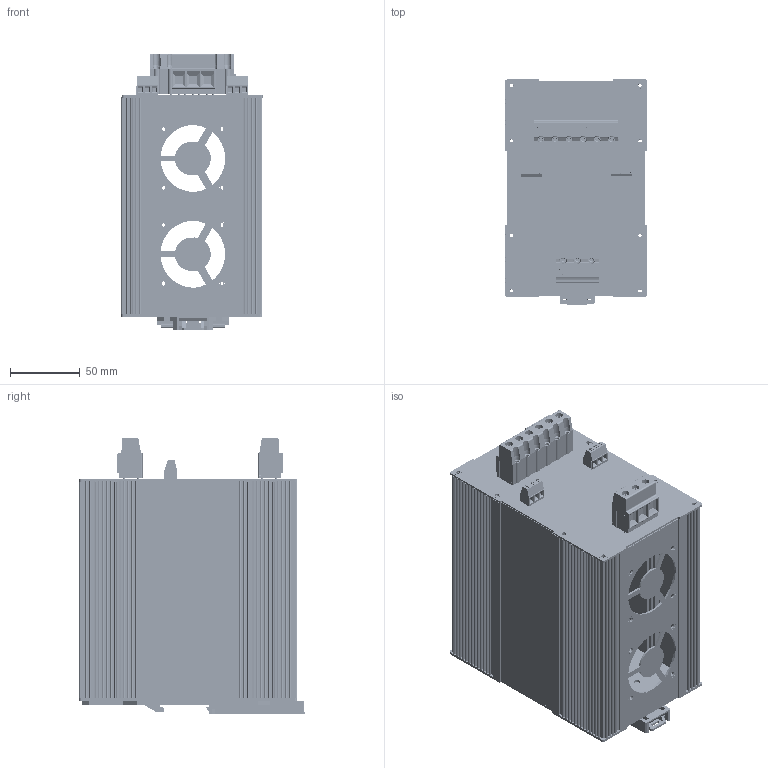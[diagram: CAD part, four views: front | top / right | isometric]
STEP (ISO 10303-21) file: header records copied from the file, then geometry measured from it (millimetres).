
FILE_DESCRIPTION(/* description */ (''),/* implementation_level */ '2;1');
FILE_NAME(/* name */ 'D:\01-KEVOLTA\PRODUITS\PRODUITS ACTIF\KMR_series\PLAN\KMR_CCR\KMR_CCR_156.stp',/* time_stamp */ '2025-09-11T15:55:58+02:00',/* author */ ('Julien'),/* organization */ (''),/* preprocessor_version */ 'ST-DEVELOPER v18.1',/* originating_system */ 'Autodesk Inventor 2021',/* authorisation */ '');
FILE_SCHEMA (('AUTOMOTIVE_DESIGN { 1 0 10303 214 3 1 1 }'));
Products named in the file (6): KMR_CCR_156; KBA-156-FAN; FACE_ARR; KMR_CCR; UTA 159 RAIL DIN; KPS_series_156_FAN
Assembly tree (6 placements, depth 2):
  KMR_CCR_156
    KBA-156-FAN
    FACE_ARR
    KMR_CCR
    UTA 159 RAIL DIN
    KPS_series_156_FAN  x2
Bounding box: 101.58 x 161.94 x 198.64 mm (x, y, z)
Volume: 313918 mm3; surface area: 366857.2 mm2
Topology: 805 solids, 1120 shells, 7373 faces, 28159 edges, 22856 vertices
Faces by surface type: plane 4407, cylinder 2892, cone 44, torus 24, bspline 6
Full cylindrical faces by diameter (mm): 0.45 x960, 0.457 x3, 0.475 x128, 0.5 x384, 0.8 x384, 1 x2, 1.25 x18, 1.3 x12, 1.35 x16, 1.4 x24, 1.45 x72, 1.5 x54, 2.4 x8, 2.6 x8, 3.15 x24, 3.2 x16, 3.3 x16, 3.5 x36, 3.65 x48, 3.7 x32, 3.8 x6, 4 x6, 4.2 x4, 4.5 x6, 4.711 x16, 5 x9, 5.6 x9, 6.4 x16, 7.4 x32, 12 x1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
Entity records: 262833 total; most frequent: CARTESIAN_POINT 51480, DIRECTION 44196, ORIENTED_EDGE 39289, EDGE_CURVE 23287, VERTEX_POINT 18937, AXIS2_PLACEMENT_3D 14990, LINE 14216, VECTOR 14216
